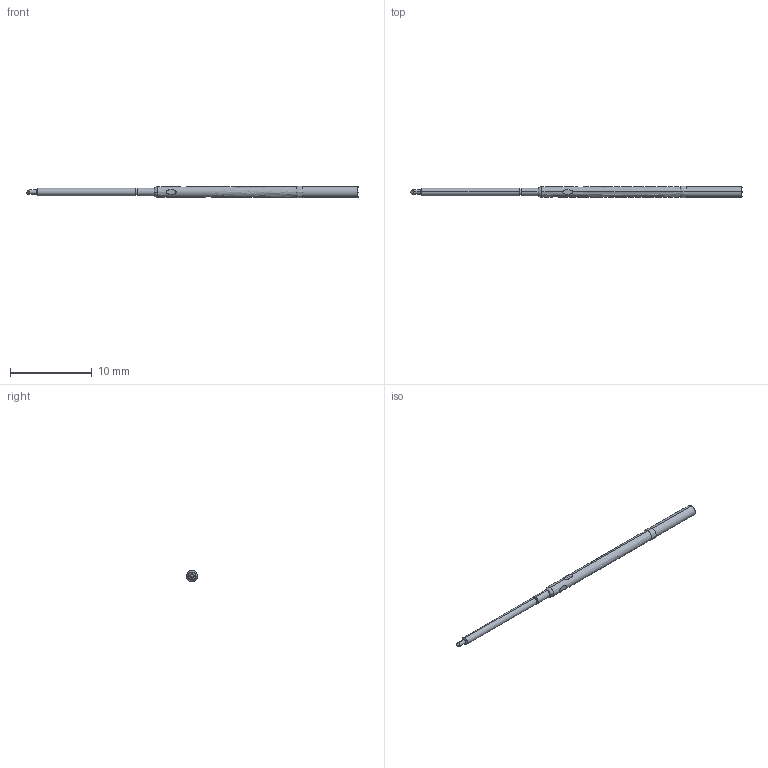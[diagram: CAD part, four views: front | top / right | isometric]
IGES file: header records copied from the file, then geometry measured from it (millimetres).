
Start section: SolidWorks IGES file using analytic representation for surfaces
Global section: file name: Z:\probe solid model mockups\Solidworks models\DER-075\DER-075T RECD.IGS; native system: SolidWorks 2006 by SolidWorks Corporation; preprocessor: SolidWorks 2006 by SolidWorks Corporation; author: tsakatani; date: 071218.084953; units: inch
Bounding box: 40.64 x 1.46 x 1.47 mm (x, y, z)
Surface area: 231.5 mm2 (no closed solid volume)
Topology: 0 solids, 0 shells, 39 faces, 410 edges, 410 vertices
Faces by surface type: revolution 29, bspline 10
